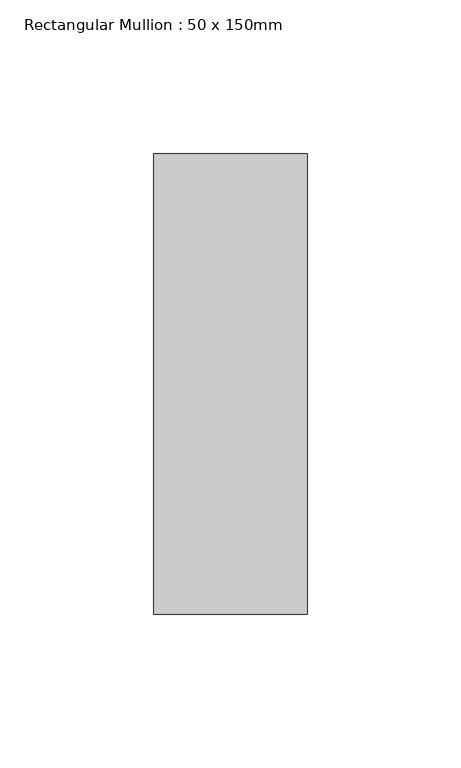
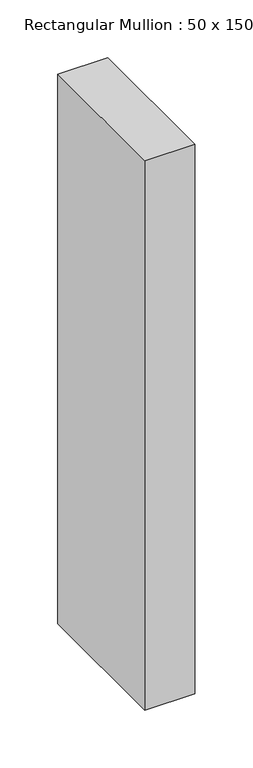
"""IFC4 building model written with IfcOpenShell, lengths in millimetres: member geometry, Rectangular Mullion : 50 x 150mm."""

from ifc_helpers import new_model, si_unit, frame, origin, place, context, project, spatial, polyline, outline, extrude, source, transform, mapped, element, save


def rectangular_mullion_50_x_150mm_7ee202ef(model_context):
    return source(origin(), model_context, "Body", "SweptSolid", [
        extrude(outline(polyline([(0.0, 75.0), (0.0, -75.0), (-50.0, -75.0), (-50.0, 75.0), (0.0, 75.0)])), frame((0.0, 0.0, -580.0), z_axis=(0.0, 0.0, 1.0), x_axis=(1.0, 0.0, 0.0)), (0.0, 0.0, 1.0), 580.0),
    ])


if __name__ == "__main__":
    model = new_model("IFC4")
    model_context = context("Model", 3, world=origin())
    ifc_project = project(units=[si_unit("LENGTHUNIT", "METRE", prefix="MILLI")], contexts=[model_context])
    site = spatial("IfcSite", under=ifc_project)
    building = spatial("IfcBuilding", under=site)
    placement = place(None, origin())
    rectangular_mullion_50_x_150mm_shape = rectangular_mullion_50_x_150mm_7ee202ef(model_context)
    element("IfcMember", 1, ObjectType="Rectangular Mullion : 50 x 150mm", at=placement, inside=building, context=model_context, shape_type="MappedRepresentation", body=[
        mapped(rectangular_mullion_50_x_150mm_shape, transform((0.0, 0.0, 0.0), x_axis=(1.0, 0.0, 0.0), y_axis=(0.0, 1.0, 0.0), z_axis=(0.0, 0.0, 1.0))),
    ])
    save(model, "model.ifc")
